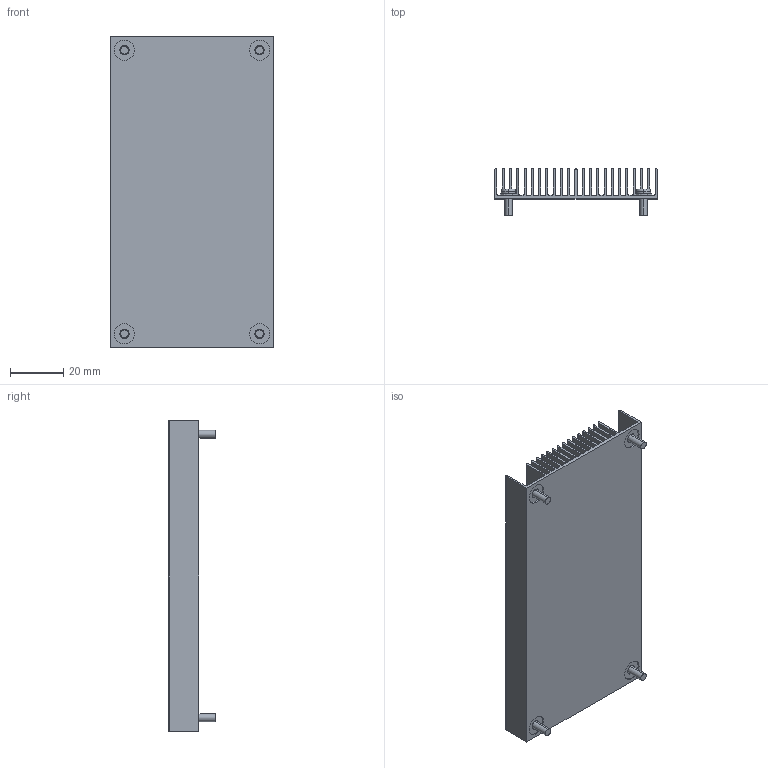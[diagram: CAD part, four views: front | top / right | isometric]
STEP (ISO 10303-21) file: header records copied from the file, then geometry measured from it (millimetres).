
FILE_DESCRIPTION (( 'STEP AP214' ), '1' );
FILE_NAME ('HS1592EBK08.STEP', '2023-03-03T19:12:09', ( '' ), ( '' ), 'SwSTEP 2.0', 'SolidWorks 2020', '' );
FILE_SCHEMA (( 'AUTOMOTIVE_DESIGN' ));
Length unit declared in the file: millimetre
Products named in the file (1): HS1592EBK08
Bounding box: 60.96 x 17.65 x 116.84 mm (x, y, z)
Volume: 29246.5 mm3; surface area: 66546.2 mm2
Topology: 5 solids, 5 shells, 574 faces, 1518 edges, 966 vertices
Faces by surface type: plane 401, cylinder 165, torus 8
Entity records: 24237 total; most frequent: CARTESIAN_POINT 3354, DIRECTION 3037, ORIENTED_EDGE 3036, EDGE_CURVE 1518, LINE 1099, VECTOR 1099, AXIS2_PLACEMENT_3D 969, VERTEX_POINT 966
